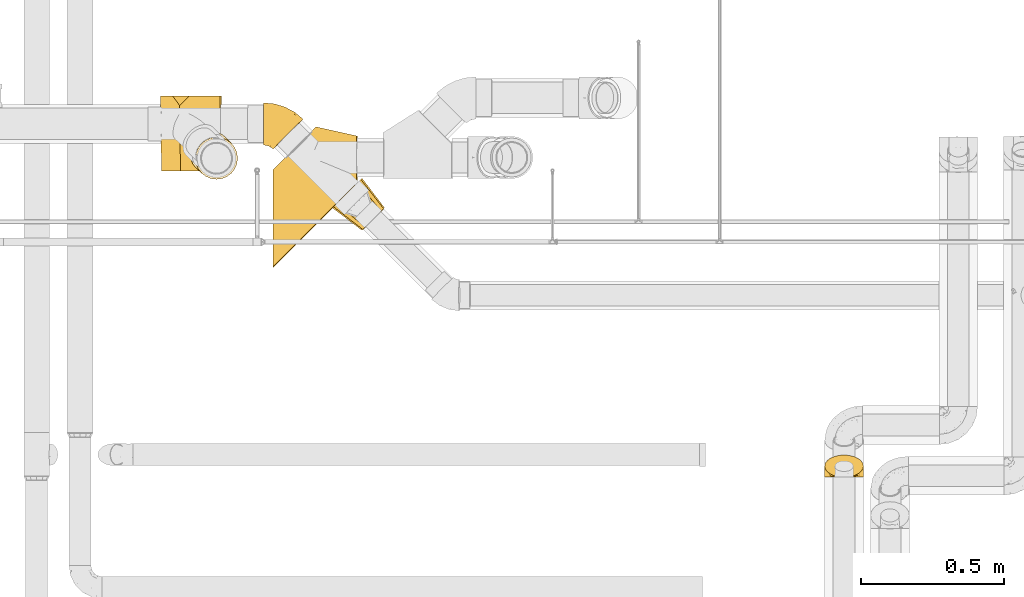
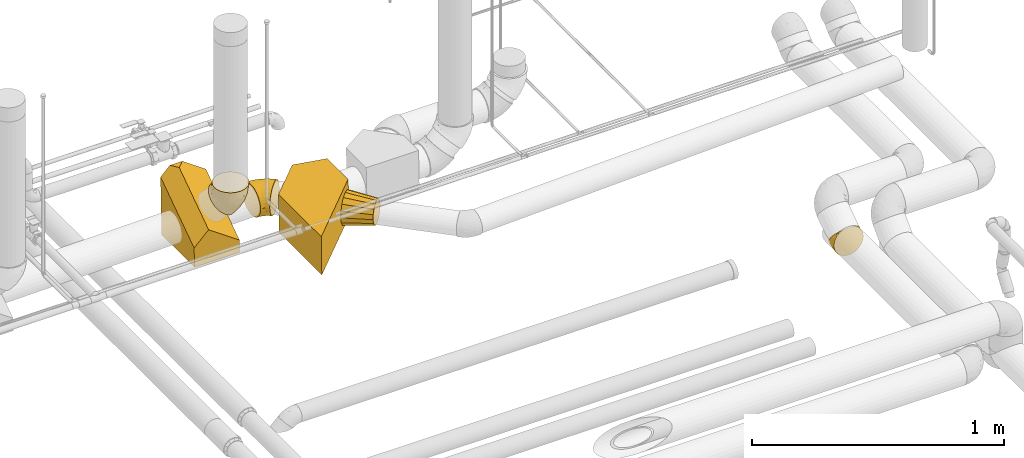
# One storey, part 21 of 156: 6 coverings.
"""IFC2X3 building model written with IfcOpenShell, lengths in millimetres."""

from ifc_helpers import new_model, entity, si_unit, converted_unit, derived_unit, direction, frame, origin_with_axes, place, context, subcontext, project, spatial, open_shell, surface_model, source, transform, mapped, element, save


model = new_model("IFC2X3")

# Units and contexts
model_context = context("Model", 3, precision=0.01, world=frame((0.0, 4.29681676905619e-09, 0.0)), true_north=direction((4.01073788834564e-13, 1.0)))
plan_context = context("Plan", 3, precision=0.01, world=frame((0.0, 4.29681676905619e-09, 0.0)), true_north=direction((4.01073788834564e-13, 1.0)))
body_context = subcontext(model_context, "Body", "Model", "MODEL_VIEW")
ifc_project = project(units=[converted_unit("PLANEANGLEUNIT", "DEGREE", entity("IfcPositiveLengthMeasure", 0.0174532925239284), si_unit("PLANEANGLEUNIT", "RADIAN"), dimensions=[0, 0, 0, 0, 0, 0, 0]), si_unit("AREAUNIT", "SQUARE_METRE"), si_unit("LENGTHUNIT", "METRE", prefix="MILLI"), si_unit("MASSUNIT", "GRAM", prefix="KILO"), si_unit("POWERUNIT", "WATT"), si_unit("PRESSUREUNIT", "PASCAL", prefix="KILO"), si_unit("FORCEUNIT", "NEWTON", prefix="KILO"), si_unit("ELECTRICVOLTAGEUNIT", "VOLT"), si_unit("ELECTRICCURRENTUNIT", "AMPERE"), si_unit("THERMODYNAMICTEMPERATUREUNIT", "DEGREE_CELSIUS"), si_unit("TIMEUNIT", "SECOND"), si_unit("VOLUMEUNIT", "CUBIC_METRE"), derived_unit("LINEARVELOCITYUNIT", [(si_unit("LENGTHUNIT", "METRE"), 1), (si_unit("TIMEUNIT", "SECOND"), -1)]), derived_unit("VOLUMETRICFLOWRATEUNIT", [(si_unit("VOLUMEUNIT", "CUBIC_METRE"), 1), (si_unit("TIMEUNIT", "SECOND"), -1)]), derived_unit("THERMALTRANSMITTANCEUNIT", [(si_unit("POWERUNIT", "WATT"), 1), (si_unit("THERMODYNAMICTEMPERATUREUNIT", "KELVIN"), -1), (si_unit("AREAUNIT", "SQUARE_METRE"), -1)]), derived_unit("SOUNDPRESSUREUNIT", [(si_unit("PRESSUREUNIT", "PASCAL"), 1)])], contexts=[model_context, plan_context])

# Site, building, storey
site_placement = place(None, frame((0.0, -4.29681676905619e-09, 0.0), z_axis=(0.0, 0.0, 1.0), x_axis=(1.0, 0.0, 0.0)))
site = spatial("IfcSite", under=ifc_project, at=site_placement, CompositionType="ELEMENT")
building_placement = place(site_placement, frame((0.0, 4.29681676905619e-09, 0.0), z_axis=(0.0, 0.0, 1.0), x_axis=(1.0, 0.0, 0.0)))
building = spatial("IfcBuilding", under=site, at=building_placement, Name="mc-building", CompositionType="ELEMENT")
storey_placement = place(building_placement, frame((0.0, 0.0, 205200.0), z_axis=(0.0, 0.0, 1.0), x_axis=(1.0, 0.0, 0.0)))
storey = spatial("IfcBuildingStorey", under=building, at=storey_placement, Name="Nivå D + 1,2 m", CompositionType="ELEMENT", Elevation=205200.0)

# Coverings
shared_shape_1 = source(origin_with_axes(), body_context, "Body", "SurfaceModel", [
    surface_model("IfcShellBasedSurfaceModel", [(-15.5433, 86.42298, 14.34271), (-12.58368, 83.46502, 28.13327), (-1.31089, 72.19854, 51.97971), (-16.54271, 87.42184, 0.0), (-7.7779, 78.66192, 40.8417), (15.55771, 55.33939, 67.90986), (25.31088, 45.59168, 72.0902), (6.56862, 64.32344, 61.11944), (-15.54556, 86.42524, -14.32665), (35.44418, 35.46404, -73.5), (-7.78589, 78.66991, -40.82479), (-12.58878, 83.47011, -28.11586), (25.29952, 45.60303, -72.08701), (-1.32131, 72.20896, -51.96498), (15.54539, 55.35169, -67.90265), (6.55666, 64.3354, -61.10815), (45.5775, 25.33641, -72.0902), (35.44418, 35.46404, 73.5), (45.58886, 25.32505, 72.08701), (55.34298, 15.57639, 67.90265), (64.33172, 6.59269, 61.10815), (72.20969, -1.28087, 51.96498), (87.43108, -16.49375, 0.0), (78.67426, -7.74183, 40.82479), (83.47715, -12.54203, 28.11586), (86.43393, -15.49715, 14.32665), (72.19926, -1.27046, -51.97971), (64.31976, 6.60464, -61.11944), (55.33067, 15.5887, -67.90986), (86.43167, -15.49489, -14.34271), (78.66626, -7.73384, -40.8417), (83.47205, -12.53693, -28.13327), (-50.13969, 70.99555, -19.0232), (-50.13969, 63.65287, 36.75), (-50.13969, 73.5, 0.0), (-50.13969, 51.97235, -51.97235), (-50.13969, 63.65287, -36.75), (-50.13969, 36.75, -63.65287), (-50.13969, 19.0232, 70.99555), (-50.13969, 19.0232, -70.99555), (-50.13969, 51.97235, 51.97235), (-50.13969, 70.99555, 19.0232), (-50.13969, 36.75, 63.65287), (-50.13969, 0.0, 73.5), (-50.13969, 0.0, -73.5), (-50.13969, -19.0232, -70.99555), (-50.13969, -36.75, -63.65287), (-50.13969, -73.5, 0.0), (-50.13969, -63.65287, -36.75), (-50.13969, -51.97235, -51.97235), (-50.13969, -70.99555, -19.0232), (-50.13969, -36.75, 63.65287), (-50.13969, -19.0232, 70.99555), (-50.13969, -51.97235, 51.97235), (-50.13969, -63.65287, 36.75), (-50.13969, -70.99555, 19.0232), (11.56228, -25.2949, 63.05029), (39.27485, -8.17532, 64.02228), (3.47233, -8.37963, 70.989), (-12.18127, -69.76008, 0.0), (4.89328, -61.97842, 22.17469), (24.3174, -58.68415, 0.0), (40.24, -21.85371, 55.62447), (50.53881, -29.5837, 42.2547), (-18.81168, 4.1259, 73.5), (57.95268, -40.69814, 0.0), (49.40071, -42.73601, 20.37723), (-20.62679, -26.92558, 67.1697), (-16.47252, -42.66504, 57.25191), (13.1376, -37.3891, 54.27649), (32.03936, -46.9351, 32.41884), (18.59816, -44.88991, 44.40879), (-0.76037, -57.73012, 35.37726), (-16.52765, -53.79428, 46.40724), (10.37987, 16.22222, 73.5), (-41.04789, 75.30913, 0.0), (-29.5426, 16.1735, 72.12133), (-16.18272, 66.52747, 46.63532), (-7.93999, 59.30547, 57.12143), (-1.67903, 33.89729, 70.33875), (-27.47699, 30.93473, 67.90515), (-24.2494, 82.27005, 0.0), (-23.33684, 78.00363, 21.34079), (-21.66706, 52.28477, 56.82324), (-36.79145, 45.92132, 58.31147), (-35.69032, 73.3937, 18.05004), (-36.79874, 59.74748, 44.74396), (-27.99223, 69.36715, 34.6544), (-39.44705, 67.51129, 31.40459), (-18.04744, 74.88567, 34.65411), (-9.79899, 45.50459, 64.41204), (-31.95608, 77.11827, 0.0), (-39.44792, 67.50947, -31.408), (-27.99524, 69.37591, -34.63712), (-36.7918, 59.749, -44.74397), (-35.68172, 73.39884, -18.04049), (-18.0424, 74.90012, -34.6373), (-16.18903, 66.53892, -46.61941), (-16.38979, 20.02574, -72.04854), (-27.49335, 30.93061, -67.90515), (-1.71014, 33.89928, -70.33364), (-9.80411, 45.52182, -64.40236), (-21.67072, 52.30048, -56.81019), (-7.94808, 59.32038, -57.10776), (-18.81168, 4.1259, -73.5), (-36.78823, 45.9219, -58.31147), (-23.33892, 78.00836, -21.32394), (10.37987, 16.22222, -73.5), (46.48559, -17.33318, -55.88679), (46.40877, -29.45807, -45.43906), (18.22956, -44.63987, -44.89508), (17.5544, -34.9492, -54.77671), (31.29121, -13.92194, -63.74441), (4.83604, -11.67062, -69.93597), (-5.04134, -30.28182, -63.58874), (-17.4941, -44.84139, -55.64125), (-11.7269, -55.05991, -43.55933), (22.17758, -51.27524, -32.67368), (52.84895, -40.55464, -20.47836), (5.46965, -63.33315, -16.86651), (-15.50904, -63.934, -29.88855), (58.2256, -30.58749, -33.66322)], [open_shell([[[0, 1, 2]], [[2, 3, 0]], [[2, 1, 4]], [[5, 6, 7]], [[2, 7, 6]], [[2, 8, 3]], [[9, 2, 6]], [[10, 11, 12]], [[12, 13, 10]], [[12, 11, 8]], [[14, 15, 12]], [[12, 15, 13]], [[8, 9, 12]], [[8, 2, 9]], [[6, 16, 9]], [[17, 18, 19]], [[19, 20, 17]], [[20, 21, 6]], [[22, 21, 23]], [[24, 25, 23]], [[21, 16, 6]], [[25, 22, 23]], [[26, 27, 28]], [[28, 21, 26]], [[28, 16, 21]], [[22, 29, 30]], [[31, 30, 29]], [[22, 30, 26]], [[22, 26, 21]], [[6, 17, 20]], [[32, 33, 34]], [[35, 32, 36]], [[33, 35, 37]], [[32, 35, 33]], [[38, 37, 39]], [[33, 38, 40]], [[33, 41, 34]], [[40, 38, 42]], [[37, 38, 33]], [[39, 43, 38]], [[39, 44, 43]], [[44, 45, 46]], [[47, 44, 46]], [[47, 46, 48]], [[48, 46, 49]], [[47, 48, 50]], [[43, 51, 52]], [[53, 51, 43]], [[54, 47, 55]], [[47, 54, 53]], [[44, 47, 53]], [[53, 43, 44]], [[56, 57, 58]], [[55, 47, 59]], [[60, 55, 59]], [[60, 59, 61]], [[19, 18, 58]], [[21, 62, 63]], [[52, 58, 64]], [[61, 65, 66]], [[23, 63, 24]], [[67, 68, 56]], [[52, 64, 43]], [[67, 58, 52]], [[51, 53, 68]], [[69, 56, 68]], [[51, 67, 52]], [[66, 60, 61]], [[70, 71, 72]], [[72, 71, 73]], [[20, 57, 62]], [[71, 70, 63]], [[25, 24, 66]], [[25, 65, 22]], [[70, 60, 66]], [[54, 72, 73]], [[71, 69, 73]], [[72, 54, 60]], [[74, 18, 17]], [[58, 74, 64]], [[58, 57, 19]], [[55, 60, 54]], [[58, 18, 74]], [[57, 20, 19]], [[62, 69, 71]], [[73, 68, 53]], [[20, 62, 21]], [[62, 57, 56]], [[53, 54, 73]], [[65, 25, 66]], [[60, 70, 72]], [[62, 71, 63]], [[66, 24, 63]], [[63, 70, 66]], [[63, 23, 21]], [[68, 67, 51]], [[58, 67, 56]], [[56, 69, 62]], [[73, 69, 68]], [[75, 34, 41]], [[43, 64, 76]], [[2, 77, 78]], [[79, 80, 76]], [[0, 81, 82]], [[80, 83, 84]], [[75, 41, 85]], [[84, 86, 40]], [[82, 85, 87]], [[86, 33, 40]], [[86, 87, 88]], [[33, 86, 88]], [[78, 77, 83]], [[88, 41, 33]], [[64, 74, 79]], [[80, 84, 42]], [[1, 89, 4]], [[7, 90, 5]], [[6, 5, 79]], [[6, 74, 17]], [[85, 91, 75]], [[90, 7, 78]], [[80, 79, 90]], [[42, 38, 80]], [[2, 4, 77]], [[40, 42, 84]], [[91, 85, 82]], [[86, 77, 87]], [[76, 80, 38]], [[77, 89, 87]], [[1, 0, 82]], [[82, 87, 89]], [[87, 85, 88]], [[79, 74, 6]], [[41, 88, 85]], [[77, 86, 83]], [[86, 84, 83]], [[4, 89, 77]], [[1, 82, 89]], [[90, 78, 83]], [[2, 78, 7]], [[80, 90, 83]], [[5, 90, 79]], [[81, 0, 3]], [[81, 91, 82]], [[43, 76, 38]], [[79, 76, 64]], [[92, 93, 94]], [[32, 75, 95]], [[96, 10, 97]], [[81, 3, 8]], [[98, 99, 100]], [[101, 102, 103]], [[44, 39, 104]], [[97, 94, 93]], [[101, 99, 102]], [[32, 95, 92]], [[105, 37, 35]], [[39, 37, 99]], [[94, 97, 102]], [[95, 106, 93]], [[8, 11, 106]], [[94, 105, 35]], [[102, 97, 103]], [[100, 101, 14]], [[11, 10, 96]], [[10, 13, 97]], [[36, 94, 35]], [[92, 94, 36]], [[96, 93, 106]], [[103, 13, 15]], [[99, 98, 39]], [[14, 12, 100]], [[12, 9, 107]], [[95, 91, 106]], [[99, 37, 105]], [[107, 100, 12]], [[98, 107, 104]], [[107, 98, 100]], [[32, 92, 36]], [[8, 106, 81]], [[95, 93, 92]], [[105, 94, 102]], [[99, 105, 102]], [[93, 96, 97]], [[11, 96, 106]], [[13, 103, 97]], [[15, 14, 101]], [[101, 103, 15]], [[99, 101, 100]], [[106, 91, 81]], [[75, 32, 34]], [[75, 91, 95]], [[39, 98, 104]], [[27, 26, 108]], [[109, 110, 111]], [[45, 44, 104]], [[112, 108, 111]], [[16, 28, 113]], [[114, 113, 112]], [[115, 116, 49]], [[113, 114, 45]], [[47, 50, 59]], [[115, 111, 110]], [[117, 118, 119]], [[61, 59, 119]], [[116, 48, 49]], [[116, 120, 48]], [[45, 114, 46]], [[115, 46, 114]], [[113, 104, 107]], [[115, 114, 111]], [[107, 9, 16]], [[117, 119, 120]], [[27, 108, 112]], [[59, 50, 119]], [[113, 28, 112]], [[113, 45, 104]], [[120, 50, 48]], [[26, 30, 109]], [[118, 121, 31]], [[111, 108, 109]], [[110, 117, 116]], [[61, 119, 118]], [[29, 22, 65]], [[61, 118, 65]], [[29, 65, 118]], [[117, 109, 121]], [[30, 31, 121]], [[29, 118, 31]], [[114, 112, 111]], [[113, 107, 16]], [[109, 108, 26]], [[112, 28, 27]], [[46, 115, 49]], [[117, 120, 116]], [[50, 120, 119]], [[117, 121, 118]], [[30, 121, 109]], [[117, 110, 109]], [[115, 110, 116]]])]),
])
covering_1_placement = place(storey_placement, frame((327510.89898, 462605.08016, 4377.96697000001), z_axis=(0.7071587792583, 0.707054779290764, 0.0), x_axis=(0.0, 0.0, -1.0)))
element("IfcCovering", 1, at=covering_1_placement, inside=storey, Name="BI17T - Cellegummi 13 mm SPV fett", PredefinedType="INSULATION", context=body_context, shape_type="MappedRepresentation", body=[
    mapped(shared_shape_1, transform((0.0, 0.0, 0.0), scale=1.0)),
])
shared_shape_2 = source(origin_with_axes(), body_context, "Body", "SurfaceModel", [
    surface_model("IfcShellBasedSurfaceModel", [(-72.2503, -92.4648, 185.16897), (-72.2503, -92.4648, -135.29598), (-5.00388, -144.74341, -97.85945), (-5.00388, -144.74341, 182.3765), (-29.07917, -126.02683, 209.20262), (134.58283, -61.58345, 163.05495), (27.70405, -125.25738, 208.65162), (134.58283, -61.58345, -157.41001), (134.58283, 138.37575, 19.86483), (134.58283, -13.3196, -191.97159), (-72.2503, 135.57303, 21.87185), (-72.2503, -16.12232, -189.96459)], [open_shell([[[0, 1, 2]], [[0, 3, 4]], [[3, 0, 2]], [[3, 2, 5]], [[3, 5, 6]], [[5, 2, 7]], [[5, 7, 8]], [[9, 8, 7]], [[6, 0, 4]], [[0, 6, 5]], [[5, 8, 10]], [[5, 10, 0]], [[4, 3, 6]], [[2, 1, 7]], [[7, 11, 9]], [[11, 7, 1]], [[8, 9, 11]], [[11, 10, 8]], [[1, 0, 10]], [[10, 11, 1]]])]),
])
covering_2_placement = place(storey_placement, frame((327391.23939, 462724.75736, 4208.82506), z_axis=(-0.00970199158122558, 0.813036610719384, 0.582131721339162), x_axis=(0.999861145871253, 0.0, 0.0166640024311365)))
element("IfcCovering", 2, at=covering_2_placement, inside=storey, Name="BI17T - Cellegummi 13 mm SPV fett", PredefinedType="INSULATION", context=body_context, shape_type="MappedRepresentation", body=[
    mapped(shared_shape_2, transform((0.0, 0.0, 0.0), scale=1.0)),
])
shared_shape_3 = source(origin_with_axes(), body_context, "Body", "SurfaceModel", [
    surface_model("IfcShellBasedSurfaceModel", [(-12.57051, 83.45018, 28.13327), (-7.76662, 78.64519, 40.8417), (-15.52896, 86.40932, 14.34271), (15.55977, 55.31344, 67.90986), (25.30908, 45.56188, 72.0902), (6.57422, 64.30104, 61.11944), (-1.30217, 72.17926, 51.97971), (25.29773, 45.57323, -72.08701), (45.5677, 25.2986, -72.0902), (35.43839, 35.43024, -73.5), (55.31701, 15.54704, -67.90986), (64.30256, 6.55943, -61.11944), (-50.11169, 70.99555, -19.0232), (-50.11169, 63.65287, 36.75), (-50.11169, 73.5, 0.0), (-50.11169, 51.97235, -51.97235), (-50.11169, 63.65287, -36.75), (-50.11169, 36.75, -63.65287), (-50.11169, 19.0232, 70.99555), (-50.11169, 19.0232, -70.99555), (-50.11169, 51.97235, 51.97235), (-50.11169, 70.99555, 19.0232), (-50.11169, 36.75, 63.65287), (-50.11169, 0.0, 73.5), (-50.11169, 0.0, -73.5), (-50.11169, -19.0232, -70.99555), (-50.11169, -36.75, -63.65287), (-50.11169, -73.5, 0.0), (-50.11169, -63.65287, -36.75), (-50.11169, -51.97235, -51.97235), (-50.11169, -70.99555, -19.0232), (-50.11169, -36.75, 63.65287), (-50.11169, -19.0232, 70.99555), (-50.11169, -51.97235, 51.97235), (-50.11169, -63.65287, 36.75), (-50.11169, -70.99555, 19.0232), (55.32933, 15.53472, 67.90265), (45.57905, 25.28724, 72.08701), (4.83295, -11.66967, 69.94009), (-12.17211, -69.76383, 0.0), (5.47127, -63.34314, 16.85829), (24.3099, -58.69885, 0.0), (52.82892, -40.59066, 20.46263), (64.31451, 6.54747, 61.10815), (31.27813, -13.96492, 63.73546), (-11.69888, -55.05946, 43.55992), (-15.47992, -63.93389, 29.88834), (-5.13229, -30.31796, 63.58832), (22.173, -51.29691, 32.65883), (17.53481, -34.98446, 54.76472), (-17.48752, -44.85264, 55.63529), (18.60661, -45.08703, 44.17753), (-18.79906, 4.12177, 73.5), (51.47715, -35.26413, 33.57471), (57.93277, -40.73016, 0.0), (86.408, -15.55109, 14.32665), (46.47151, -17.38051, 55.87421), (72.18937, -1.3292, 51.96498), (46.38712, -29.50407, 45.42391), (78.65139, -7.79271, 40.82479), (87.40476, -16.54809, 0.0), (10.38028, 16.20629, 73.5), (35.43839, 35.43024, 73.5), (83.45238, -12.59481, 28.11586), (-41.02422, 75.30734, 0.0), (-29.51877, 16.1722, 72.12142), (-16.1761, 66.51414, 46.63532), (-7.93161, 59.29894, 57.11682), (-1.68615, 33.87776, 70.33875), (-27.46767, 30.93003, 67.90515), (-24.23236, 82.26162, 0.0), (-23.32572, 77.99311, 21.34079), (-21.65263, 52.27915, 56.82324), (-36.77164, 45.91987, 58.31147), (-35.68359, 73.38795, 18.04741), (-36.78195, 59.74505, 44.74396), (-27.9843, 69.35854, 34.6544), (-39.42692, 67.50114, 31.42237), (-18.03731, 74.87324, 34.65411), (-9.78281, 45.49999, 64.41121), (-31.93675, 77.11468, 0.0), (-16.52798, 87.40856, 0.0), (-39.42779, 67.49934, -31.42575), (-27.98732, 69.3673, -34.63712), (-36.77501, 59.74655, -44.74397), (-35.675, 73.39308, -18.03786), (-18.03259, 74.88747, -34.6373), (-7.77461, 78.65318, -40.82479), (-16.18241, 66.5256, -46.61941), (-15.53121, 86.41157, -14.32665), (-16.39665, 20.01457, -72.04845), (-27.48405, 30.92591, -67.90515), (-1.71727, 33.87975, -70.33364), (-9.78792, 45.51721, -64.40154), (-21.65629, 52.29486, -56.81019), (-7.9397, 59.31386, -57.10315), (-18.79906, 4.12177, -73.5), (-36.76841, 45.92044, -58.31147), (-23.3278, 77.99785, -21.32394), (-12.57561, 83.45528, -28.11586), (15.54745, 55.32575, -67.90265), (-1.31259, 72.18968, -51.96498), (6.56227, 64.313, -61.10815), (10.38028, 16.20629, -73.5), (72.17896, -1.31878, -51.97971), (46.45974, -17.37005, -55.8873), (46.37778, -29.49533, -45.43968), (18.21264, -44.65069, -44.90433), (17.52252, -34.97381, -54.77783), (31.26619, -13.95277, -63.74498), (4.83295, -11.66967, -69.94009), (-5.10763, -30.30074, -63.59382), (-17.504, -44.84175, -55.64726), (-11.71588, -55.06276, -43.56045), (22.1716, -51.28841, -32.67572), (52.82599, -40.58686, -20.47911), (5.4704, -63.34111, -16.86762), (-15.48601, -63.93352, -29.89169), (78.6434, -7.78472, -40.8417), (58.1956, -30.62811, -33.66454), (83.44729, -12.58971, -28.13327), (86.40574, -15.54884, -14.34271)], [open_shell([[[0, 1, 2]], [[3, 4, 5]], [[5, 4, 1]], [[1, 6, 5]], [[7, 8, 9]], [[10, 8, 11]], [[12, 13, 14]], [[15, 12, 16]], [[13, 15, 17]], [[12, 15, 13]], [[18, 17, 19]], [[13, 18, 20]], [[13, 21, 14]], [[20, 18, 22]], [[17, 18, 13]], [[19, 23, 18]], [[19, 24, 23]], [[24, 25, 26]], [[27, 24, 26]], [[27, 26, 28]], [[28, 26, 29]], [[27, 28, 30]], [[23, 31, 32]], [[33, 31, 23]], [[34, 27, 35]], [[27, 34, 33]], [[24, 27, 33]], [[33, 23, 24]], [[36, 37, 38]], [[35, 27, 39]], [[40, 39, 41]], [[41, 42, 40]], [[43, 36, 44]], [[45, 34, 46]], [[32, 31, 47]], [[42, 48, 40]], [[49, 50, 51]], [[49, 47, 50]], [[32, 52, 23]], [[52, 32, 38]], [[34, 45, 33]], [[36, 38, 44]], [[44, 47, 49]], [[53, 48, 42]], [[41, 54, 42]], [[54, 55, 42]], [[56, 57, 43]], [[53, 58, 51]], [[53, 59, 58]], [[55, 54, 60]], [[50, 31, 33]], [[32, 47, 38]], [[56, 58, 57]], [[45, 51, 50]], [[61, 37, 62]], [[38, 61, 52]], [[48, 45, 46]], [[35, 40, 46]], [[37, 61, 38]], [[56, 44, 49]], [[58, 56, 49]], [[44, 56, 43]], [[59, 57, 58]], [[35, 39, 40]], [[51, 45, 48]], [[42, 55, 63]], [[31, 50, 47]], [[47, 44, 38]], [[45, 50, 33]], [[35, 46, 34]], [[48, 46, 40]], [[42, 63, 53]], [[59, 53, 63]], [[53, 51, 48]], [[49, 51, 58]], [[64, 14, 21]], [[23, 52, 65]], [[6, 66, 67]], [[68, 69, 65]], [[2, 70, 71]], [[69, 72, 73]], [[64, 21, 74]], [[73, 75, 20]], [[71, 74, 76]], [[75, 13, 20]], [[75, 76, 77]], [[13, 75, 77]], [[67, 66, 72]], [[77, 21, 13]], [[52, 61, 68]], [[69, 73, 22]], [[0, 78, 1]], [[5, 79, 3]], [[4, 3, 68]], [[4, 61, 62]], [[74, 80, 64]], [[79, 5, 67]], [[69, 68, 79]], [[22, 18, 69]], [[6, 1, 66]], [[20, 22, 73]], [[80, 74, 71]], [[75, 66, 76]], [[65, 69, 18]], [[66, 78, 76]], [[0, 2, 71]], [[71, 76, 78]], [[76, 74, 77]], [[68, 61, 4]], [[21, 77, 74]], [[66, 75, 72]], [[75, 73, 72]], [[1, 78, 66]], [[0, 71, 78]], [[79, 67, 72]], [[6, 67, 5]], [[69, 79, 72]], [[3, 79, 68]], [[70, 2, 81]], [[70, 80, 71]], [[23, 65, 18]], [[68, 65, 52]], [[82, 83, 84]], [[12, 64, 85]], [[86, 87, 88]], [[70, 81, 89]], [[90, 91, 92]], [[93, 94, 95]], [[24, 19, 96]], [[88, 84, 83]], [[93, 91, 94]], [[12, 85, 82]], [[97, 17, 15]], [[19, 17, 91]], [[84, 88, 94]], [[85, 98, 83]], [[89, 99, 98]], [[84, 97, 15]], [[94, 88, 95]], [[92, 93, 100]], [[99, 87, 86]], [[87, 101, 88]], [[16, 84, 15]], [[82, 84, 16]], [[86, 83, 98]], [[95, 101, 102]], [[91, 90, 19]], [[100, 7, 92]], [[7, 9, 103]], [[85, 80, 98]], [[91, 17, 97]], [[103, 92, 7]], [[90, 103, 96]], [[103, 90, 92]], [[12, 82, 16]], [[89, 98, 70]], [[85, 83, 82]], [[97, 84, 94]], [[91, 97, 94]], [[83, 86, 88]], [[99, 86, 98]], [[101, 95, 88]], [[102, 100, 93]], [[93, 95, 102]], [[91, 93, 92]], [[98, 80, 70]], [[64, 12, 14]], [[64, 80, 85]], [[19, 90, 96]], [[11, 104, 105]], [[106, 107, 108]], [[25, 24, 96]], [[109, 105, 108]], [[8, 10, 110]], [[111, 110, 109]], [[112, 113, 29]], [[110, 111, 25]], [[27, 30, 39]], [[112, 108, 107]], [[114, 115, 116]], [[41, 39, 116]], [[113, 28, 29]], [[113, 117, 28]], [[25, 111, 26]], [[112, 26, 111]], [[110, 96, 103]], [[112, 111, 108]], [[103, 9, 8]], [[114, 116, 117]], [[11, 105, 109]], [[39, 30, 116]], [[110, 10, 109]], [[110, 25, 96]], [[117, 30, 28]], [[104, 118, 106]], [[115, 119, 120]], [[108, 105, 106]], [[107, 114, 113]], [[41, 116, 115]], [[121, 60, 54]], [[41, 115, 54]], [[121, 54, 115]], [[114, 106, 119]], [[118, 120, 119]], [[121, 115, 120]], [[111, 109, 108]], [[110, 103, 8]], [[106, 105, 104]], [[109, 10, 11]], [[26, 112, 29]], [[114, 117, 113]], [[30, 117, 116]], [[114, 119, 115]], [[118, 119, 106]], [[114, 107, 106]], [[112, 107, 113]], [[89, 81, 2]], [[101, 2, 1]], [[101, 1, 11]], [[99, 89, 87]], [[101, 87, 2]], [[89, 2, 87]], [[100, 102, 7]], [[7, 102, 101]], [[7, 101, 11]], [[1, 4, 120]], [[62, 37, 36]], [[62, 36, 57]], [[57, 36, 43]], [[120, 57, 59]], [[59, 63, 120]], [[120, 62, 57]], [[121, 63, 55]], [[118, 104, 11]], [[8, 7, 11]], [[121, 120, 63]], [[118, 11, 120]], [[120, 11, 1]], [[60, 121, 55]], [[4, 62, 120]]])]),
])
covering_3_placement = place(storey_placement, frame((327725.3839, 462724.75736, 4214.39413), z_axis=(-0.0166639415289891, 0.00690193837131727, 0.999837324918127), x_axis=(-0.707008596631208, 0.707008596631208, -0.0166639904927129)))
element("IfcCovering", 3, at=covering_3_placement, inside=storey, Name="BI17T - Cellegummi 13 mm SPV fett", PredefinedType="INSULATION", context=body_context, shape_type="MappedRepresentation", body=[
    mapped(shared_shape_3, transform((0.0, 0.0, 0.0), scale=1.0)),
])
shared_shape_4 = source(origin_with_axes(), body_context, "Body", "SurfaceModel", [
    surface_model("IfcShellBasedSurfaceModel", [(-63.88641, -86.50527, 74.79325), (-63.88641, -86.50527, -107.99845), (58.72124, -164.45844, -105.41903), (58.72124, -164.45844, 77.37268), (175.48298, -47.66991, -104.29045), (175.48298, -47.66991, 78.50126), (175.48298, 363.14597, -107.14611), (175.48298, 367.45362, 75.61565), (-63.88641, 128.0293, 73.30198), (-63.88641, 123.72166, -109.45978)], [open_shell([[[0, 1, 2]], [[2, 3, 0]], [[2, 4, 3]], [[5, 3, 4]], [[6, 7, 5]], [[5, 4, 6]], [[3, 5, 0]], [[5, 8, 0]], [[8, 5, 7]], [[9, 6, 4]], [[1, 4, 2]], [[4, 1, 9]], [[6, 9, 8]], [[8, 7, 6]], [[8, 9, 0]], [[1, 0, 9]]])]),
])
covering_4_placement = place(storey_placement, frame((327842.48114, 462607.66, 4217.16278000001), z_axis=(0.0166640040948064, -0.00683400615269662, -0.999837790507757), x_axis=(0.707009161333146, -0.707009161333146, 0.016616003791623)))
element("IfcCovering", 4, at=covering_4_placement, inside=storey, Name="BI17T - Cellegummi 13 mm SPV fett", PredefinedType="INSULATION", context=body_context, shape_type="MappedRepresentation", body=[
    mapped(shared_shape_4, transform((0.0, 0.0, 0.0), scale=1.0)),
])
shared_shape_5 = source(origin_with_axes(), body_context, "Body", "SurfaceModel", [
    surface_model("IfcShellBasedSurfaceModel", [(128.0, -21.23893, 51.27531), (128.0, -39.24443, 39.24443), (128.0, -55.5, 0.0), (128.0, -51.27531, 21.23893), (128.0, 0.0, 55.5), (128.0, 21.23893, 51.27531), (128.0, 39.24443, 39.24443), (128.0, 51.27531, -21.23893), (128.0, 51.27531, 21.23893), (128.0, -51.27531, -21.23893), (128.0, -39.24443, -39.24443), (128.0, -21.23893, -51.27531), (128.0, 21.23893, -51.27531), (128.0, 0.0, -55.5), (128.0, 55.5, 0.0), (128.0, 39.24443, -39.24443), (0.0, -27.93589, 67.44321), (0.0, 0.0, 73.0), (0.0, 27.93589, 67.44321), (0.0, 73.0, 0.0), (0.0, 51.6188, 51.6188), (0.0, -67.44321, 27.93589), (0.0, -51.6188, 51.6188), (0.0, -67.44321, -27.93589), (0.0, -73.0, 0.0), (0.0, 67.44321, 27.93589), (0.0, 0.0, -73.0), (0.0, 67.44321, -27.93589), (0.0, 51.6188, -51.6188), (0.0, 27.93589, -67.44321), (0.0, -51.6188, -51.6188), (0.0, -27.93589, -67.44321), (128.0, -10.61947, -53.38766), (128.0, -30.24168, -45.25987), (0.0, -39.77734, -59.531), (0.0, -13.44908, -70.32481), (0.0, -70.32481, -13.44908), (128.0, -53.38766, -10.61947), (128.0, -45.25987, -30.24168), (0.0, -59.531, -39.77734), (128.0, 53.38766, -10.61947), (128.0, 45.25987, -30.24168), (0.0, 59.531, -39.77734), (0.0, 70.32481, -13.44908), (0.0, 13.44908, -70.32481), (128.0, 10.61947, -53.38766), (128.0, 30.24168, -45.25987), (0.0, 39.77734, -59.531), (128.0, 10.61947, 53.38766), (128.0, 30.24168, 45.25987), (0.0, 39.77734, 59.531), (0.0, 13.44908, 70.32481), (0.0, 70.32481, 13.44908), (128.0, 53.38766, 10.61947), (128.0, 45.25987, 30.24168), (0.0, 59.531, 39.77734), (128.0, -53.38766, 10.61947), (128.0, -45.25987, 30.24168), (0.0, -59.531, 39.77734), (0.0, -70.32481, 13.44908), (0.0, -13.44908, 70.32481), (128.0, -10.61947, 53.38766), (128.0, -30.24168, 45.25987), (0.0, -39.77734, 59.531)], [open_shell([[[0, 1, 2]], [[3, 2, 1]], [[0, 2, 4]], [[5, 4, 6]], [[7, 8, 6]], [[7, 6, 4]], [[4, 2, 7]], [[9, 10, 11]], [[11, 7, 2]], [[12, 11, 13]], [[8, 7, 14]], [[15, 7, 11]], [[12, 15, 11]], [[2, 9, 11]], [[16, 17, 18]], [[19, 16, 18]], [[20, 19, 18]], [[21, 22, 23]], [[23, 24, 21]], [[16, 23, 22]], [[19, 20, 25]], [[26, 19, 27]], [[26, 27, 28]], [[26, 28, 29]], [[30, 23, 26]], [[26, 31, 30]], [[23, 19, 26]], [[19, 23, 16]], [[31, 32, 11]], [[33, 30, 34]], [[35, 13, 32]], [[30, 33, 10]], [[31, 35, 32]], [[34, 31, 11]], [[34, 11, 33]], [[36, 37, 2]], [[38, 9, 23]], [[10, 39, 30]], [[23, 9, 37]], [[13, 35, 26]], [[38, 23, 39]], [[39, 10, 38]], [[2, 24, 36]], [[23, 37, 36]], [[27, 40, 7]], [[41, 28, 42]], [[43, 14, 40]], [[28, 41, 15]], [[27, 43, 40]], [[42, 27, 7]], [[42, 7, 41]], [[44, 45, 13]], [[46, 12, 29]], [[15, 47, 28]], [[29, 12, 45]], [[14, 43, 19]], [[46, 29, 47]], [[47, 15, 46]], [[13, 26, 44]], [[29, 45, 44]], [[18, 48, 5]], [[49, 20, 50]], [[51, 4, 48]], [[20, 49, 6]], [[18, 51, 48]], [[50, 18, 5]], [[50, 5, 49]], [[52, 53, 14]], [[54, 8, 25]], [[6, 55, 20]], [[25, 8, 53]], [[4, 51, 17]], [[54, 25, 55]], [[55, 6, 54]], [[14, 19, 52]], [[25, 53, 52]], [[21, 56, 3]], [[57, 22, 58]], [[59, 2, 56]], [[22, 57, 1]], [[21, 59, 56]], [[58, 21, 3]], [[58, 3, 57]], [[60, 61, 4]], [[62, 0, 16]], [[1, 63, 22]], [[16, 0, 61]], [[2, 59, 24]], [[62, 16, 63]], [[63, 1, 62]], [[4, 17, 60]], [[16, 61, 60]]])]),
])
covering_5_placement = place(storey_placement, frame((327966.54922, 462483.59192, 4220.07855999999), z_axis=(-0.0166640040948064, 0.00683400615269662, 0.999837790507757), x_axis=(0.707009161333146, -0.707009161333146, 0.016616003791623)))
element("IfcCovering", 5, at=covering_5_placement, inside=storey, Name="BI17T - Cellegummi 13 mm SPV fett", PredefinedType="INSULATION", context=body_context, shape_type="MappedRepresentation", body=[
    mapped(shared_shape_5, transform((0.0, 0.0, 0.0), scale=1.0)),
])
shared_shape_6 = source(origin_with_axes(), body_context, "Body", "SurfaceModel", [
    surface_model("IfcShellBasedSurfaceModel", [(-20.44742, 64.81475, 18.84935), (-20.44742, 64.81475, -18.84935), (-20.44742, 57.87557, -34.73714), (-20.44742, 47.11836, -48.33333), (-20.44742, 33.25277, -58.74099), (-20.44742, 17.19351, -65.27353), (-20.44742, 47.11836, 48.33333), (-20.44742, 17.19351, 65.27353), (-20.44742, 57.87557, 34.73714), (-20.44742, 33.25277, 58.74099), (-20.44742, 0.0, 67.5), (-20.44742, -17.47029, -65.19999), (-20.44742, -33.75, 58.45672), (-20.44742, -58.45672, -33.75), (-20.44742, -33.75, -58.45672), (-20.44742, -67.5, 0.0), (-20.44742, -47.72971, -47.72971), (-20.44742, -65.19999, -17.47029), (-20.44742, -47.72971, 47.72971), (-20.44742, -17.47029, 65.19999), (-20.44742, -58.45672, 33.75), (-20.44742, -65.19999, 17.47029), (-20.44742, 0.0, -67.5), (-10.21021, 50.33873, -48.33333), (-16.3687, 59.15863, -34.73714), (-10.21021, 50.33873, 48.33333), (16.76496, 11.70611, -67.5), (6.92171, 25.80317, -65.27353), (-2.27219, 38.97025, -58.74099), (6.92171, 25.80317, 65.27353), (16.76496, 11.70611, 67.5), (-16.3687, 59.15863, 34.73714), (-20.34137, 64.84811, 18.84935), (-20.36047, 64.87547, -18.84935), (-2.27219, 38.97025, 58.74099), (36.08678, -15.96571, -58.45672), (26.76667, -2.61788, -65.19999), (55.4086, -43.63754, 0.0), (44.09014, -27.42776, -47.72971), (54.09184, -41.75175, -17.47029), (50.23133, -36.2229, -33.75), (36.08678, -15.96571, 58.45672), (26.76667, -2.61788, 65.19999), (44.09014, -27.42776, 47.72971), (50.23133, -36.2229, 33.75), (54.09184, -41.75175, 17.47029), (-16.41002, 40.85635, -53.98417), (-17.46066, 53.31084, -41.88204), (-11.46913, 42.22706, -53.98417), (-0.04958, 17.12191, -66.24458), (-8.57444, 27.25717, -62.52499), (-17.07181, 57.41311, -36.63071), (-20.38963, 61.67544, -26.07866), (-10.22958, 12.92713, -66.43664), (-0.94233, 2.99555, -67.5), (-20.34137, 64.84811, -18.84935), (-14.21841, 50.60341, -46.0914), (11.38831, -36.20212, -53.55135), (-1.15799, -51.97154, -41.0914), (22.73529, -45.40687, -41.0914), (0.85377, -23.29809, -62.36187), (10.52693, -5.80982, -66.37209), (-5.01529, -10.81059, -66.35773), (4.63098, -64.03118, -11.88356), (17.77112, -56.49234, -25.83113), (30.75916, -55.79783, -13.16859), (18.74282, -16.94156, -62.36187), (19.31296, -61.39368, 0.0), (34.50447, -49.89706, 25.83113), (5.75461, -63.71794, 12.36534), (15.12728, -48.08785, 41.0914), (9.42075, -58.81009, 25.83113), (32.20193, -55.36059, 12.28804), (18.19671, -33.80291, 53.55135), (-3.18534, -39.67762, 53.55135), (10.06062, -6.96936, 66.20301), (6.80903, -21.64514, 62.36187), (-5.77888, -10.47129, 66.4457), (-0.94233, 2.99555, 67.5), (-9.76161, 14.06675, 66.24457), (-8.57444, 27.25717, 62.52499), (-9.93551, 42.89307, 53.98417), (-14.77131, 41.18827, 53.98417), (-16.20426, 53.70607, 41.88204), (0.98654, 16.45545, 66.43664), (-18.59151, 62.24109, 26.07866), (-18.87162, 56.84693, 36.63071), (-17.3126, 49.63005, 46.0914)], [open_shell([[[0, 1, 2]], [[3, 4, 5]], [[2, 3, 6]], [[5, 7, 3]], [[0, 6, 8]], [[0, 2, 6]], [[6, 7, 9]], [[3, 7, 6]], [[5, 10, 7]], [[5, 11, 10]], [[10, 11, 12]], [[13, 11, 14]], [[11, 13, 15]], [[13, 14, 16]], [[17, 15, 13]], [[12, 15, 18]], [[19, 10, 12]], [[20, 15, 21]], [[15, 20, 18]], [[11, 15, 12]], [[11, 5, 22]], [[23, 24, 25]], [[23, 26, 27]], [[28, 23, 27]], [[23, 29, 30]], [[31, 25, 32]], [[24, 33, 32]], [[34, 29, 25]], [[24, 32, 25]], [[23, 25, 29]], [[30, 26, 23]], [[35, 36, 37]], [[38, 35, 37]], [[37, 39, 40]], [[38, 37, 40]], [[41, 37, 36]], [[42, 41, 30]], [[41, 36, 30]], [[43, 44, 37]], [[43, 37, 41]], [[37, 44, 45]], [[26, 30, 36]], [[46, 47, 48]], [[26, 49, 27]], [[50, 46, 48]], [[51, 47, 52]], [[5, 53, 22]], [[22, 53, 54]], [[50, 49, 53]], [[28, 27, 50]], [[24, 52, 55]], [[53, 49, 54]], [[52, 47, 2]], [[56, 47, 51]], [[46, 50, 4]], [[50, 48, 28]], [[54, 49, 26]], [[47, 56, 48]], [[4, 3, 46]], [[4, 50, 5]], [[48, 23, 28]], [[2, 47, 3]], [[47, 46, 3]], [[49, 50, 27]], [[50, 53, 5]], [[52, 24, 51]], [[23, 51, 24]], [[51, 23, 56]], [[23, 48, 56]], [[57, 58, 16]], [[57, 16, 14]], [[16, 58, 13]], [[58, 57, 59]], [[60, 57, 14]], [[61, 62, 54]], [[17, 63, 15]], [[40, 64, 59]], [[63, 64, 65]], [[13, 64, 17]], [[60, 14, 11]], [[64, 58, 59]], [[22, 54, 62]], [[60, 61, 66]], [[38, 40, 59]], [[57, 60, 66]], [[57, 66, 35]], [[36, 61, 26]], [[60, 62, 61]], [[35, 66, 36]], [[35, 38, 57]], [[38, 59, 57]], [[65, 37, 67]], [[65, 64, 39]], [[58, 64, 13]], [[40, 39, 64]], [[60, 11, 62]], [[36, 66, 61]], [[22, 62, 11]], [[26, 61, 54]], [[37, 65, 39]], [[63, 65, 67]], [[15, 63, 67]], [[64, 63, 17]], [[44, 68, 45]], [[15, 67, 69]], [[18, 20, 70]], [[70, 20, 71]], [[71, 72, 68]], [[43, 41, 73]], [[12, 18, 74]], [[37, 72, 67]], [[73, 74, 70]], [[75, 76, 42]], [[74, 76, 12]], [[19, 77, 10]], [[72, 45, 68]], [[76, 74, 73]], [[43, 73, 70]], [[21, 71, 20]], [[41, 42, 76]], [[71, 68, 70]], [[70, 44, 43]], [[72, 69, 67]], [[77, 76, 75]], [[12, 76, 19]], [[30, 78, 75]], [[71, 69, 72]], [[41, 76, 73]], [[70, 68, 44]], [[15, 69, 21]], [[72, 37, 45]], [[70, 74, 18]], [[71, 21, 69]], [[30, 75, 42]], [[77, 75, 78]], [[10, 77, 78]], [[76, 77, 19]], [[7, 79, 80]], [[80, 81, 82]], [[83, 81, 25]], [[80, 82, 9]], [[83, 25, 31]], [[30, 84, 78]], [[84, 79, 78]], [[0, 8, 85]], [[10, 78, 79]], [[10, 79, 7]], [[30, 29, 84]], [[81, 80, 34]], [[82, 6, 9]], [[80, 9, 7]], [[83, 31, 85]], [[83, 82, 81]], [[29, 34, 80]], [[34, 25, 81]], [[86, 83, 85]], [[79, 84, 80]], [[87, 83, 86]], [[83, 87, 82]], [[80, 84, 29]], [[85, 8, 86]], [[6, 86, 8]], [[86, 6, 87]], [[6, 82, 87]]])]),
])
covering_6_placement = place(storey_placement, frame((329697.42979, 461515.58914, 4051.25266), z_axis=(1.0, 0.0, 0.0), x_axis=(0.0, 0.999997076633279, 0.00241800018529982)))
element("IfcCovering", 6, at=covering_6_placement, inside=storey, Name="BI10T - Cellegummi 18-32 mm kalde rør", PredefinedType="INSULATION", context=body_context, shape_type="MappedRepresentation", body=[
    mapped(shared_shape_6, transform((0.0, 0.0, 0.0), scale=1.0)),
])

save(model, "model.ifc")
